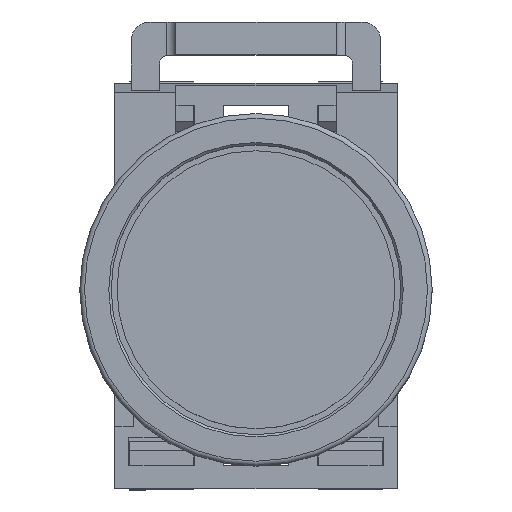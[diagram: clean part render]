
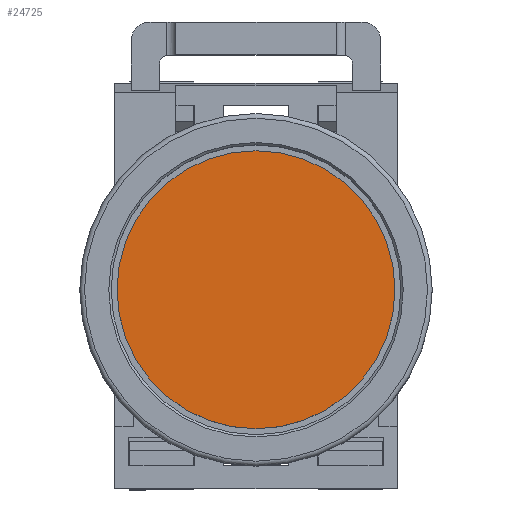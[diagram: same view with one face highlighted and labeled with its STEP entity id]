
A CAD part, top view. The second image highlights one B-rep face of the part: STEP entity #24725.
In plain terms, the highlighted planar face has unit normal (0, 0, 1).
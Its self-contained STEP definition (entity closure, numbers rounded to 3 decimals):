
#24709=CARTESIAN_POINT('',(-7.375,0.0,62.3));
#24710=DIRECTION('',(0.0,0.0,1.0));
#24711=DIRECTION('',(1.0,0.0,0.0));
#24712=AXIS2_PLACEMENT_3D('',#24709,#24710,#24711);
#24713=PLANE('',#24712);
#24714=CARTESIAN_POINT('',(-14.75,0.0,62.3));
#24715=VERTEX_POINT('',#24714);
#24716=CARTESIAN_POINT('',(0.0,0.0,62.3));
#24717=DIRECTION('',(0.0,0.0,-1.0));
#24718=DIRECTION('',(-1.0,0.0,0.0));
#24719=AXIS2_PLACEMENT_3D('',#24716,#24717,#24718);
#24720=CIRCLE('',#24719,14.75);
#24721=EDGE_CURVE('',#24715,#24715,#24720,.T.);
#24722=ORIENTED_EDGE('',*,*,#24721,.F.);
#24723=EDGE_LOOP('',(#24722));
#24724=FACE_OUTER_BOUND('',#24723,.T.);
#24725=ADVANCED_FACE('',(#24724),#24713,.T.);
